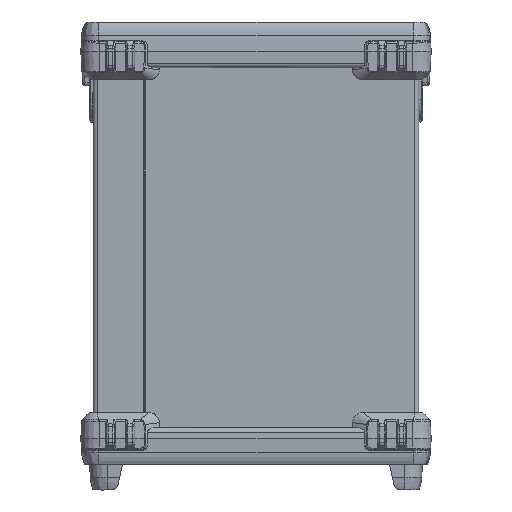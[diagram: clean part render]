
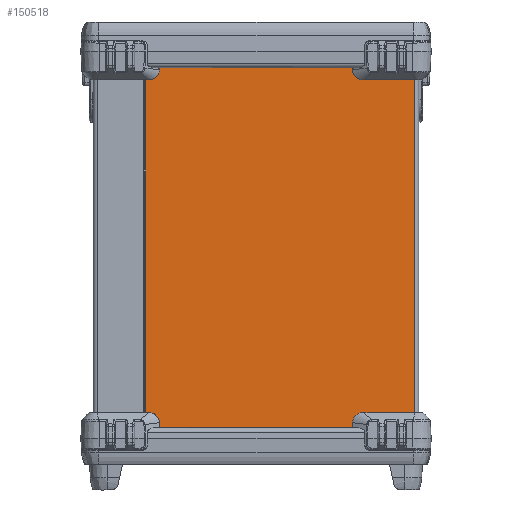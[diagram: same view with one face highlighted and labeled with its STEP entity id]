
A CAD part, front view. The second image highlights one B-rep face of the part: STEP entity #150518.
In plain terms, the highlighted planar face has unit normal (0, -1, 0).
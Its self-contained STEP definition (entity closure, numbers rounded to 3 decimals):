
#1977 = VECTOR ( 'NONE', #7404, 1000. ) ;
#2226 = ORIENTED_EDGE ( 'NONE', *, *, #99030, .F. ) ;
#3929 = VERTEX_POINT ( 'NONE', #106153 ) ;
#4351 = CARTESIAN_POINT ( 'NONE',  ( -251., -82.6, 106.5 ) ) ;
#4970 = ORIENTED_EDGE ( 'NONE', *, *, #114198, .T. ) ;
#5771 = DIRECTION ( 'NONE',  ( -1., 0., 0. ) ) ;
#7404 = DIRECTION ( 'NONE',  ( 0., 0., -1. ) ) ;
#7699 = EDGE_CURVE ( 'NONE', #65966, #69169, #165212, .T. ) ;
#10163 = VERTEX_POINT ( 'NONE', #11845 ) ;
#11845 = CARTESIAN_POINT ( 'NONE',  ( -7., -82.6, -72.7 ) ) ;
#12206 = CARTESIAN_POINT ( 'NONE',  ( -7., -82.6, -72.7 ) ) ;
#15479 = CARTESIAN_POINT ( 'NONE',  ( 0., -82.6, -73.5 ) ) ;
#16182 = CARTESIAN_POINT ( 'NONE',  ( -16.048, -82.6, 93.25 ) ) ;
#16995 = FACE_BOUND ( 'NONE', #95447, .T. ) ;
#17031 = EDGE_CURVE ( 'NONE', #133887, #114253, #136942, .T. ) ;
#18221 = VECTOR ( 'NONE', #5771, 1000. ) ;
#18592 = VERTEX_POINT ( 'NONE', #30097 ) ;
#18952 = ORIENTED_EDGE ( 'NONE', *, *, #138008, .F. ) ;
#19083 = CARTESIAN_POINT ( 'NONE',  ( -251., -82.6, 104.5 ) ) ;
#20236 = ORIENTED_EDGE ( 'NONE', *, *, #50675, .T. ) ;
#24444 = CARTESIAN_POINT ( 'NONE',  ( -251., -82.6, -72.3 ) ) ;
#26820 = ORIENTED_EDGE ( 'NONE', *, *, #17031, .T. ) ;
#29960 = CARTESIAN_POINT ( 'NONE',  ( -244., -82.6, -72.3 ) ) ;
#30097 = CARTESIAN_POINT ( 'NONE',  ( 0., -82.6, -73.5 ) ) ;
#31146 = DIRECTION ( 'NONE',  ( 1., 0., 0. ) ) ;
#33063 = LINE ( 'NONE', #84446, #143945 ) ;
#34442 = VECTOR ( 'NONE', #70433, 1000. ) ;
#35851 = VERTEX_POINT ( 'NONE', #124515 ) ;
#37273 = CARTESIAN_POINT ( 'NONE',  ( -251., -82.6, 106.5 ) ) ;
#41002 = CARTESIAN_POINT ( 'NONE',  ( -7., -82.6, 106.5 ) ) ;
#42140 = DIRECTION ( 'NONE',  ( 0., 1., 0. ) ) ;
#42606 = CARTESIAN_POINT ( 'NONE',  ( -16.048, -82.6, 96. ) ) ;
#42820 = CARTESIAN_POINT ( 'NONE',  ( -251., -82.6, -73.5 ) ) ;
#44228 = CARTESIAN_POINT ( 'NONE',  ( -244., -82.6, 106.5 ) ) ;
#47326 = DIRECTION ( 'NONE',  ( -1., 0., 0. ) ) ;
#50591 = VERTEX_POINT ( 'NONE', #145558 ) ;
#50675 = EDGE_CURVE ( 'NONE', #50591, #154718, #71390, .T. ) ;
#55706 = DIRECTION ( 'NONE',  ( 0., -1., 0. ) ) ;
#56300 = VECTOR ( 'NONE', #95605, 1000. ) ;
#63568 = DIRECTION ( 'NONE',  ( 1., 0., 0. ) ) ;
#64116 = ORIENTED_EDGE ( 'NONE', *, *, #94672, .T. ) ;
#64300 = AXIS2_PLACEMENT_3D ( 'NONE', #42606, #93997, #145351 ) ;
#65966 = VERTEX_POINT ( 'NONE', #42820 ) ;
#66817 = DIRECTION ( 'NONE',  ( 0., 0., -1. ) ) ;
#68198 = VECTOR ( 'NONE', #63568, 1000. ) ;
#68342 = FACE_OUTER_BOUND ( 'NONE', #79662, .T. ) ;
#69169 = VERTEX_POINT ( 'NONE', #113150 ) ;
#69785 = LINE ( 'NONE', #121158, #18221 ) ;
#70433 = DIRECTION ( 'NONE',  ( -1., 0., 0. ) ) ;
#70877 = AXIS2_PLACEMENT_3D ( 'NONE', #157486, #42140, #93529 ) ;
#71390 = LINE ( 'NONE', #122777, #1977 ) ;
#75356 = EDGE_CURVE ( 'NONE', #10163, #113814, #156355, .T. ) ;
#75816 = DIRECTION ( 'NONE',  ( 1., 0., 0. ) ) ;
#75993 = CARTESIAN_POINT ( 'NONE',  ( -7., -82.6, -72.3 ) ) ;
#79662 = EDGE_LOOP ( 'NONE', ( #2226, #112977, #162572, #130308, #101262, #80314, #64116, #20236, #139058, #18952, #4970, #100776 ) ) ;
#80314 = ORIENTED_EDGE ( 'NONE', *, *, #75356, .T. ) ;
#84446 = CARTESIAN_POINT ( 'NONE',  ( -244.4, -82.6, 106.5 ) ) ;
#85562 = CARTESIAN_POINT ( 'NONE',  ( -16.048, -82.6, 98.75 ) ) ;
#88650 = DIRECTION ( 'NONE',  ( 0., 0., 1. ) ) ;
#92379 = DIRECTION ( 'NONE',  ( 0., 0., 1. ) ) ;
#93529 = DIRECTION ( 'NONE',  ( 0., 0., -1. ) ) ;
#93997 = DIRECTION ( 'NONE',  ( 0., 1., 0. ) ) ;
#94672 = EDGE_CURVE ( 'NONE', #113814, #50591, #139829, .T. ) ;
#95163 = LINE ( 'NONE', #146524, #125271 ) ;
#95447 = EDGE_LOOP ( 'NONE', ( #26820, #136424 ) ) ;
#95605 = DIRECTION ( 'NONE',  ( 0., 0., -1. ) ) ;
#97537 = AXIS2_PLACEMENT_3D ( 'NONE', #4351, #55706, #107099 ) ;
#98413 = VERTEX_POINT ( 'NONE', #122769 ) ;
#99030 = EDGE_CURVE ( 'NONE', #35851, #65966, #111353, .T. ) ;
#100776 = ORIENTED_EDGE ( 'NONE', *, *, #7699, .F. ) ;
#101262 = ORIENTED_EDGE ( 'NONE', *, *, #154246, .T. ) ;
#102441 = VERTEX_POINT ( 'NONE', #110145 ) ;
#106153 = CARTESIAN_POINT ( 'NONE',  ( -244.4, -82.6, -72.3 ) ) ;
#107099 = DIRECTION ( 'NONE',  ( 0., 0., -1. ) ) ;
#107826 = VECTOR ( 'NONE', #66817, 1000. ) ;
#110145 = CARTESIAN_POINT ( 'NONE',  ( 0., -82.6, 104.5 ) ) ;
#111353 = LINE ( 'NONE', #162670, #147789 ) ;
#112977 = ORIENTED_EDGE ( 'NONE', *, *, #144587, .T. ) ;
#113150 = CARTESIAN_POINT ( 'NONE',  ( -251., -82.6, 104.5 ) ) ;
#113814 = VERTEX_POINT ( 'NONE', #75993 ) ;
#114198 = EDGE_CURVE ( 'NONE', #102441, #69169, #134478, .T. ) ;
#114253 = VERTEX_POINT ( 'NONE', #85562 ) ;
#114759 = VECTOR ( 'NONE', #75816, 1000. ) ;
#119731 = PLANE ( 'NONE',  #97537 ) ;
#121158 = CARTESIAN_POINT ( 'NONE',  ( -251., -82.6, -73.5 ) ) ;
#122769 = CARTESIAN_POINT ( 'NONE',  ( -244., -82.6, -72.7 ) ) ;
#122777 = CARTESIAN_POINT ( 'NONE',  ( -6.6, -82.6, 106.5 ) ) ;
#124515 = CARTESIAN_POINT ( 'NONE',  ( -244.4, -82.6, -73.5 ) ) ;
#125271 = VECTOR ( 'NONE', #31146, 1000. ) ;
#127386 = EDGE_CURVE ( 'NONE', #18592, #154718, #69785, .T. ) ;
#127578 = LINE ( 'NONE', #12206, #68198 ) ;
#129880 = EDGE_CURVE ( 'NONE', #135396, #98413, #159575, .T. ) ;
#130308 = ORIENTED_EDGE ( 'NONE', *, *, #129880, .T. ) ;
#130850 = LINE ( 'NONE', #15479, #107826 ) ;
#133887 = VERTEX_POINT ( 'NONE', #16182 ) ;
#134478 = LINE ( 'NONE', #19083, #34442 ) ;
#135396 = VERTEX_POINT ( 'NONE', #29960 ) ;
#135833 = DIRECTION ( 'NONE',  ( 0., 0., 1. ) ) ;
#136424 = ORIENTED_EDGE ( 'NONE', *, *, #142127, .T. ) ;
#136942 = CIRCLE ( 'NONE', #64300, 2.75 ) ;
#138008 = EDGE_CURVE ( 'NONE', #102441, #18592, #130850, .T. ) ;
#139058 = ORIENTED_EDGE ( 'NONE', *, *, #127386, .F. ) ;
#139829 = LINE ( 'NONE', #24444, #114759 ) ;
#142127 = EDGE_CURVE ( 'NONE', #114253, #133887, #143486, .T. ) ;
#143486 = CIRCLE ( 'NONE', #70877, 2.75 ) ;
#143945 = VECTOR ( 'NONE', #135833, 1000. ) ;
#144587 = EDGE_CURVE ( 'NONE', #35851, #3929, #33063, .T. ) ;
#145351 = DIRECTION ( 'NONE',  ( 0., 0., -1. ) ) ;
#145558 = CARTESIAN_POINT ( 'NONE',  ( -6.6, -82.6, -72.3 ) ) ;
#146524 = CARTESIAN_POINT ( 'NONE',  ( -251., -82.6, -72.3 ) ) ;
#147789 = VECTOR ( 'NONE', #47326, 1000. ) ;
#150518 = ADVANCED_FACE ( 'NONE', ( #16995, #68342 ), #119731, .T. ) ;
#154246 = EDGE_CURVE ( 'NONE', #98413, #10163, #127578, .T. ) ;
#154718 = VERTEX_POINT ( 'NONE', #165026 ) ;
#156355 = LINE ( 'NONE', #41002, #161202 ) ;
#157486 = CARTESIAN_POINT ( 'NONE',  ( -16.048, -82.6, 96. ) ) ;
#159548 = EDGE_CURVE ( 'NONE', #3929, #135396, #95163, .T. ) ;
#159575 = LINE ( 'NONE', #44228, #56300 ) ;
#160381 = VECTOR ( 'NONE', #88650, 1000. ) ;
#161202 = VECTOR ( 'NONE', #92379, 1000. ) ;
#162572 = ORIENTED_EDGE ( 'NONE', *, *, #159548, .T. ) ;
#162670 = CARTESIAN_POINT ( 'NONE',  ( -251., -82.6, -73.5 ) ) ;
#165026 = CARTESIAN_POINT ( 'NONE',  ( -6.6, -82.6, -73.5 ) ) ;
#165212 = LINE ( 'NONE', #37273, #160381 ) ;
